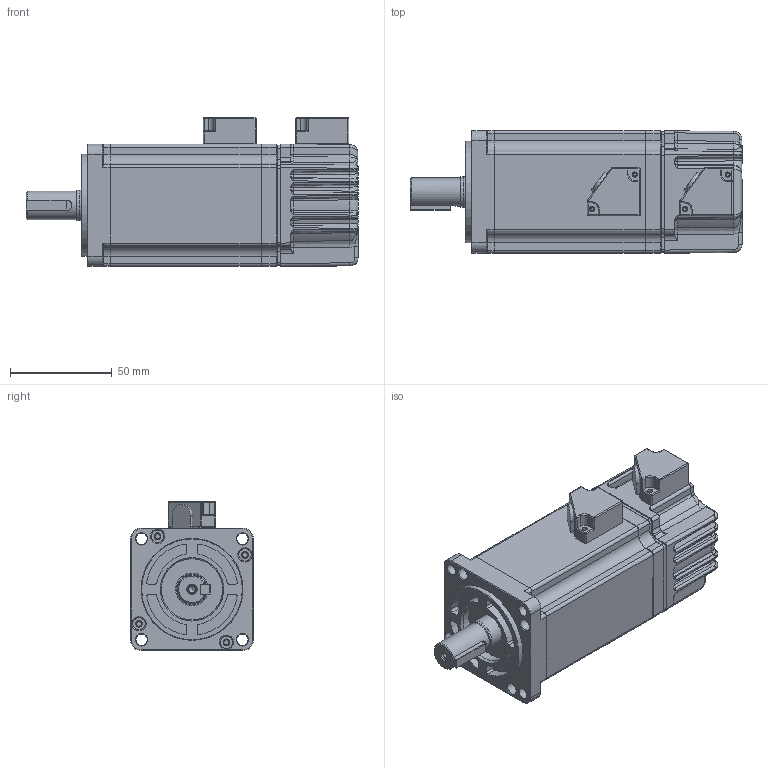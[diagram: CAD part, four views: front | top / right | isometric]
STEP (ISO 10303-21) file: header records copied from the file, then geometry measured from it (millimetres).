
FILE_DESCRIPTION( ( 'Unknown' ), '1' );
FILE_NAME( 'C:/Documents and Settings/leon/桌面/工作資料/3D型錄相關/3D組立圖(給子勤)/要寄的壓縮檔/KM無煞車機種/stp/DTSC06401C3NGUD0K.stp', 'Unknown', ( 'Unknown' ), ( 'Unknown' ), 'PSStep 14.0', 'Unknown', ' ' );
FILE_SCHEMA( ( 'AUTOMOTIVE_DESIGN { 1 0 10303 214 1 1 1 1 }' ) );
Length unit declared in the file: millimetre
Products named in the file (15): 0S140E1203822-00; 0S152W6A15H01-00-oa1; 0S200EM00000F-00; 0S211EM00000F-00; 0S180EMC3BAUP-02; 0S331EMA0B20P-02; 0S871WHPPCN20-02-oa0; Assem1; 0S871WHPPCN20-02; 0S152W6A15H01-00; 0S302E0A0B30P-03; 0S301E0A0B30P-01; 0S861EB152211-00; 0S362E6038PB1-00; 0Y204E0520001-00
Assembly tree (14 placements, depth 4):
  Assem1
    0S871WHPPCN20-02
    0S152W6A15H01-00
    0S302E0A0B30P-03
    0S301E0A0B30P-01
    0S861EB152211-00
    0S362E6038PB1-00
    0Y204E0520001-00
    0S200EM00000F-00
      0S211EM00000F-00
    0S180EMC3BAUP-02
      0S331EMA0B20P-02
      0S871WHPPCN20-02-oa0
      0S140E1203822-00
        0S152W6A15H01-00-oa1
Bounding box: 162.8 x 60 x 73.06 mm (x, y, z)
Volume: 447445.8 mm3; surface area: 80791.2 mm2
Topology: 11 solids, 11 shells, 983 faces, 2429 edges, 1422 vertices
Faces by surface type: cylinder 317, plane 305, bspline 214, cone 87, torus 38, sphere 22
Full cylindrical faces by diameter (mm): 1.567 x4, 2.121 x1, 2.2 x2, 2.3 x2, 2.459 x12, 2.5 x4, 3.242 x1, 3.3 x4, 3.5 x8, 4.2 x1, 5.5 x4, 6 x8, 14 x1, 14.9 x1, 15 x1, 16 x1, 30 x1, 50 x1, 52 x1, 57.6 x2
Entity records: 49065 total; most frequent: CARTESIAN_POINT 19693, ORIENTED_EDGE 4422, DIRECTION 4344, EDGE_CURVE 2211, AXIS2_PLACEMENT_3D 1698, VERTEX_POINT 1366, EDGE_LOOP 1154, FACE_OUTER_BOUND 1043
